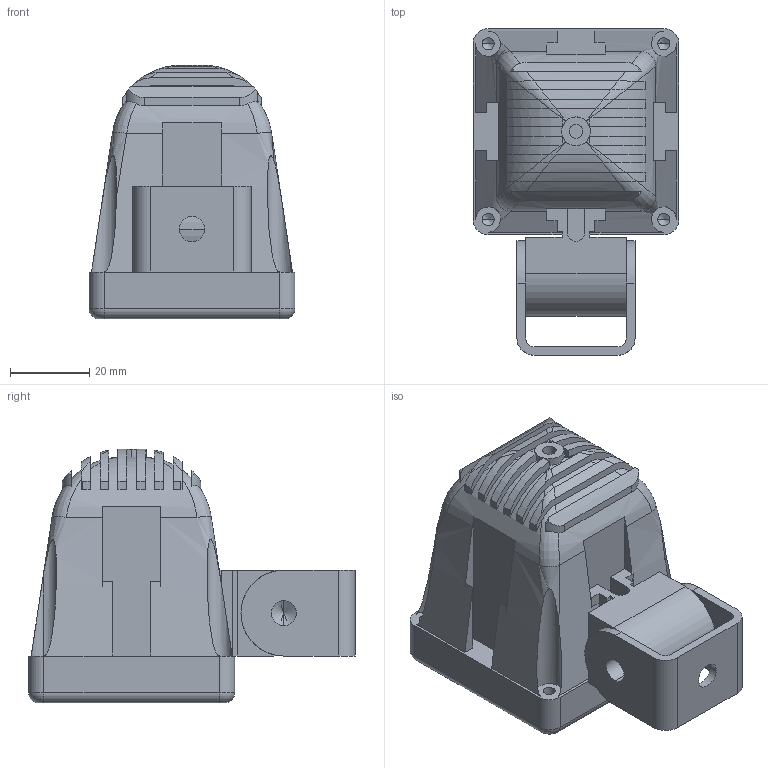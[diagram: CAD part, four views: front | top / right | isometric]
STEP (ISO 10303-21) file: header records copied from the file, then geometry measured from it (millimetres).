
FILE_DESCRIPTION (( 'STEP AP203' ), '1' );
FILE_NAME ('LED10W-1S-5M.STEP', '2025-11-18T14:32:33', ( '' ), ( '' ), 'SwSTEP 2.0', 'SolidWorks 2020', '' );
FILE_SCHEMA (( 'CONFIG_CONTROL_DESIGN' ));
Length unit declared in the file: inch
Products named in the file (1): LED10W-1S-5M
Bounding box: 51.82 x 82.17 x 63.88 mm (x, y, z)
Volume: 123550.3 mm3; surface area: 22598.6 mm2
Topology: 1 solids, 1 shells, 235 faces, 665 edges, 422 vertices
Faces by surface type: plane 100, cylinder 59, bspline 58, cone 12, torus 6
Entity records: 29072 total; most frequent: CARTESIAN_POINT 23732, ORIENTED_EDGE 1298, DIRECTION 795, EDGE_CURVE 649, VERTEX_POINT 422, B_SPLINE_CURVE_WITH_KNOTS 315, AXIS2_PLACEMENT_3D 283, EDGE_LOOP 245
